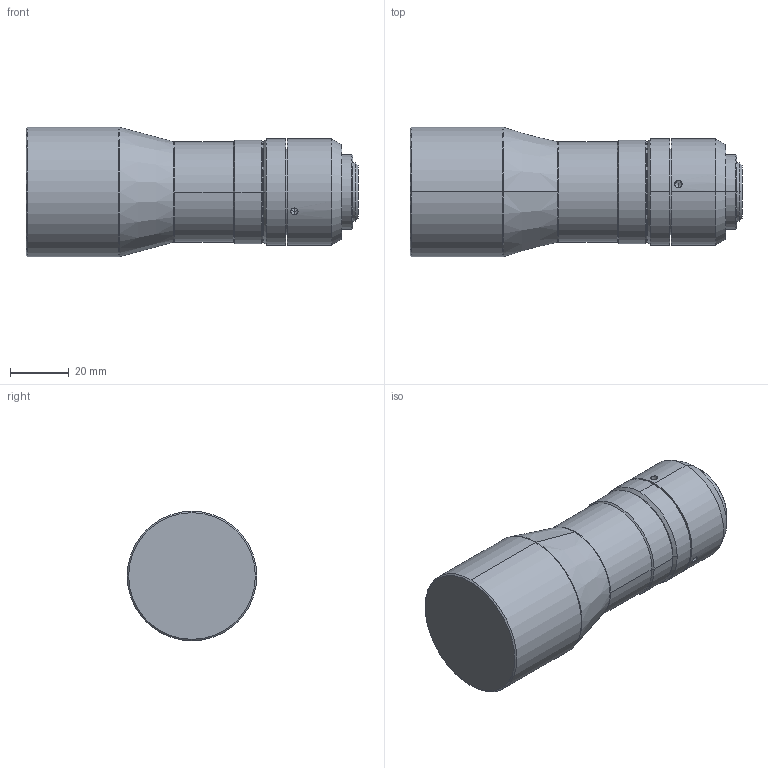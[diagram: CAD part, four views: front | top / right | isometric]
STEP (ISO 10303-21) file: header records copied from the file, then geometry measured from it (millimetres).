
FILE_DESCRIPTION (( 'STEP AP203' ), '1' );
FILE_NAME ('DTCM120-26-AL.STEP', '2019-11-13T03:54:02', ( 'Windows 蚚誧' ), ( '' ), 'SwSTEP 2.0', 'SolidWorks 2017', '' );
FILE_SCHEMA (( 'CONFIG_CONTROL_DESIGN' ));
Length unit declared in the file: millimetre
Products named in the file (1): DTCM120-26-AL
Bounding box: 112.7 x 44 x 44 mm (x, y, z)
Volume: 127348.9 mm3; surface area: 17224.1 mm2
Topology: 1 solids, 1 shells, 58 faces, 126 edges, 73 vertices
Faces by surface type: cylinder 24, cone 22, plane 8, bspline 4
Entity records: 1751 total; most frequent: CARTESIAN_POINT 426, DIRECTION 284, ORIENTED_EDGE 240, EDGE_CURVE 120, AXIS2_PLACEMENT_3D 119, VERTEX_POINT 73, EDGE_LOOP 67, CIRCLE 64
